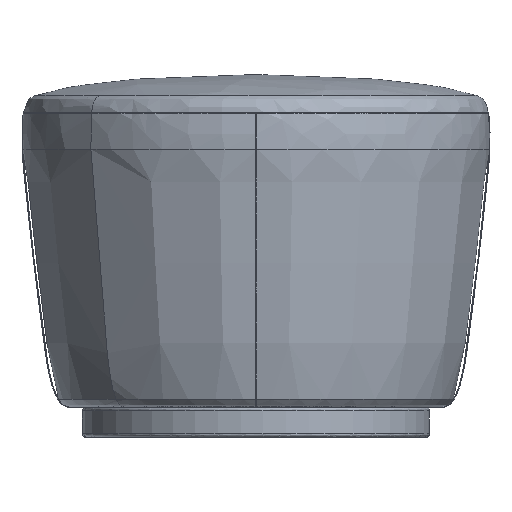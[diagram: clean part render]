
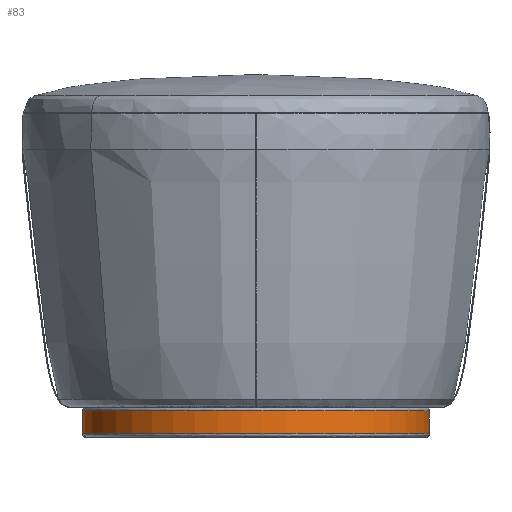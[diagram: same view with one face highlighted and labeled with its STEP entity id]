
A CAD part, front view. The second image highlights one B-rep face of the part: STEP entity #83.
In plain terms, the highlighted free-form (B-spline) face has degree [2, 1] with [5, 2] control points.
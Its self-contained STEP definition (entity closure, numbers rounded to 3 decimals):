
#83=ADVANCED_FACE('',(#123),#506,.T.);
#123=FACE_OUTER_BOUND('',#163,.T.);
#163=EDGE_LOOP('',(#292,#293,#294,#295));
#292=ORIENTED_EDGE('',*,*,#367,.T.);
#293=ORIENTED_EDGE('',*,*,#361,.T.);
#294=ORIENTED_EDGE('',*,*,#368,.F.);
#295=ORIENTED_EDGE('',*,*,#366,.F.);
#361=EDGE_CURVE('',#475,#476,#421,.T.);
#366=EDGE_CURVE('',#479,#480,#426,.T.);
#367=EDGE_CURVE('',#479,#475,#427,.T.);
#368=EDGE_CURVE('',#480,#476,#428,.T.);
#421=(
BOUNDED_CURVE()
B_SPLINE_CURVE(1,(#9712,#9713),.UNSPECIFIED.,.F.,.F.)
B_SPLINE_CURVE_WITH_KNOTS((2,2),(5.,35.),.UNSPECIFIED.)
CURVE()
GEOMETRIC_REPRESENTATION_ITEM()
RATIONAL_B_SPLINE_CURVE((1.,1.))
REPRESENTATION_ITEM('')
);
#426=(
BOUNDED_CURVE()
B_SPLINE_CURVE(1,(#9794,#9795),.UNSPECIFIED.,.F.,.F.)
B_SPLINE_CURVE_WITH_KNOTS((2,2),(5.,35.),.UNSPECIFIED.)
CURVE()
GEOMETRIC_REPRESENTATION_ITEM()
RATIONAL_B_SPLINE_CURVE((1.,1.))
REPRESENTATION_ITEM('')
);
#427=(
BOUNDED_CURVE()
B_SPLINE_CURVE(2,(#9796,#9797,#9798,#9799,#9800),.UNSPECIFIED.,.F.,.F.)
B_SPLINE_CURVE_WITH_KNOTS((3,2,3),(692.306,1038.459,1384.612),
 .UNSPECIFIED.)
CURVE()
GEOMETRIC_REPRESENTATION_ITEM()
RATIONAL_B_SPLINE_CURVE((1.,0.707,1.,0.707,1.))
REPRESENTATION_ITEM('')
);
#428=(
BOUNDED_CURVE()
B_SPLINE_CURVE(2,(#9801,#9802,#9803,#9804,#9805),.UNSPECIFIED.,.F.,.F.)
B_SPLINE_CURVE_WITH_KNOTS((3,2,3),(692.306,1038.459,1384.612),
 .UNSPECIFIED.)
CURVE()
GEOMETRIC_REPRESENTATION_ITEM()
RATIONAL_B_SPLINE_CURVE((1.,0.707,1.,0.707,1.))
REPRESENTATION_ITEM('')
);
#475=VERTEX_POINT('',#9694);
#476=VERTEX_POINT('',#9695);
#479=VERTEX_POINT('',#9698);
#480=VERTEX_POINT('',#9699);
#506=(
BOUNDED_SURFACE()
B_SPLINE_SURFACE(2,1,((#9462,#9463),(#9464,#9465),(#9466,#9467),(#9468,
#9469),(#9470,#9471)),.UNSPECIFIED.,.F.,.F.,.F.)
B_SPLINE_SURFACE_WITH_KNOTS((3,2,3),(2,2),(753.982,1130.973,
1507.964),(0.,40.),.UNSPECIFIED.)
GEOMETRIC_REPRESENTATION_ITEM()
RATIONAL_B_SPLINE_SURFACE(((1.,1.),(0.707,0.707),
(1.,1.),(0.707,0.707),(1.,1.)))
REPRESENTATION_ITEM('')
SURFACE()
);
#9462=CARTESIAN_POINT('',(46.618,-97.179,0.));
#9463=CARTESIAN_POINT('',(46.618,-97.179,3.973));
#9464=CARTESIAN_POINT('',(46.618,-119.716,0.));
#9465=CARTESIAN_POINT('',(46.618,-119.716,3.973));
#9466=CARTESIAN_POINT('',(69.155,-119.716,0.));
#9467=CARTESIAN_POINT('',(69.155,-119.716,3.973));
#9468=CARTESIAN_POINT('',(91.691,-119.716,0.));
#9469=CARTESIAN_POINT('',(91.691,-119.716,3.973));
#9470=CARTESIAN_POINT('',(91.691,-97.179,0.));
#9471=CARTESIAN_POINT('',(91.691,-97.179,3.973));
#9694=CARTESIAN_POINT('',(91.691,-97.179,0.497));
#9695=CARTESIAN_POINT('',(91.691,-97.179,3.476));
#9698=CARTESIAN_POINT('',(46.618,-97.179,0.497));
#9699=CARTESIAN_POINT('',(46.618,-97.179,3.476));
#9712=CARTESIAN_POINT('',(91.691,-97.179,0.497));
#9713=CARTESIAN_POINT('',(91.691,-97.179,3.476));
#9794=CARTESIAN_POINT('',(46.618,-97.179,0.497));
#9795=CARTESIAN_POINT('',(46.618,-97.179,3.476));
#9796=CARTESIAN_POINT('',(46.618,-97.179,0.497));
#9797=CARTESIAN_POINT('',(46.618,-119.716,0.497));
#9798=CARTESIAN_POINT('',(69.155,-119.716,0.497));
#9799=CARTESIAN_POINT('',(91.691,-119.716,0.497));
#9800=CARTESIAN_POINT('',(91.691,-97.179,0.497));
#9801=CARTESIAN_POINT('',(46.618,-97.179,3.476));
#9802=CARTESIAN_POINT('',(46.618,-119.716,3.476));
#9803=CARTESIAN_POINT('',(69.155,-119.716,3.476));
#9804=CARTESIAN_POINT('',(91.691,-119.716,3.476));
#9805=CARTESIAN_POINT('',(91.691,-97.179,3.476));
